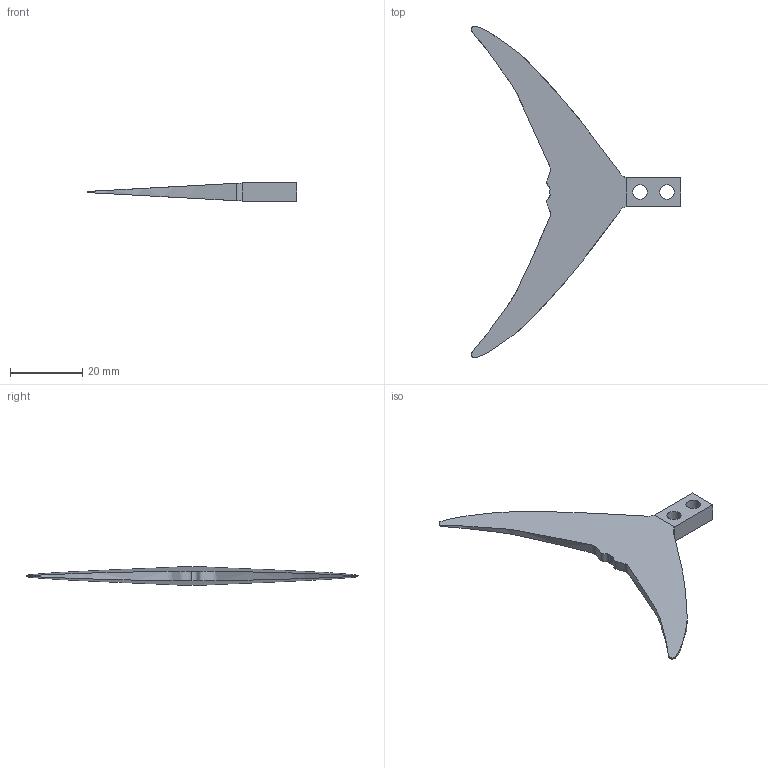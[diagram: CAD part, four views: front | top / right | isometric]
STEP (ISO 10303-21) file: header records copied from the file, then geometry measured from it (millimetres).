
FILE_DESCRIPTION(/* description */ (''),/* implementation_level */ '2;1');
FILE_NAME(/* name */ 'C:\Users\Diego\Downloads\9\Animalitos\Tuna.stp',/* time_stamp */ '2019-07-10T16:11:37-04:00',/* author */ ('Diego'),/* organization */ (''),/* preprocessor_version */ 'ST-DEVELOPER v16.5',/* originating_system */ 'Autodesk Inventor 2017',/* authorisation */ '');
FILE_SCHEMA (('AUTOMOTIVE_DESIGN { 1 0 10303 214 3 1 1 }'));
Length unit declared in the file: millimetre
Products named in the file (1): Tuna
Bounding box: 57.85 x 91.84 x 5 mm (x, y, z)
Volume: 3903.5 mm3; surface area: 3416.1 mm2
Topology: 1 solids, 1 shells, 17 faces, 41 edges, 26 vertices
Faces by surface type: plane 7, cylinder 6, bspline 4
Full cylindrical faces by diameter (mm): 4 x2
Entity records: 879 total; most frequent: CARTESIAN_POINT 473, ORIENTED_EDGE 78, DIRECTION 71, EDGE_CURVE 39, VERTEX_POINT 26, AXIS2_PLACEMENT_3D 26, EDGE_LOOP 23, LINE 19
